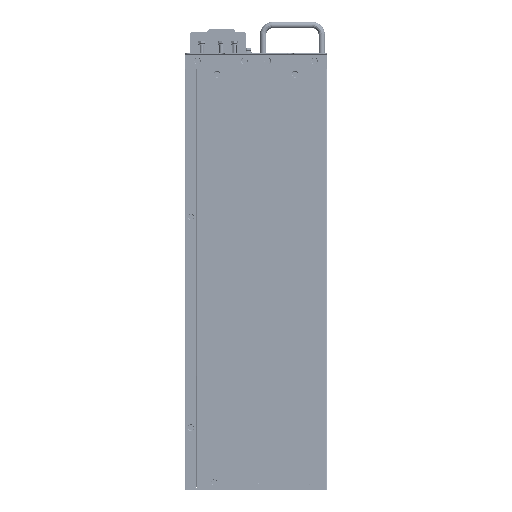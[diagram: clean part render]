
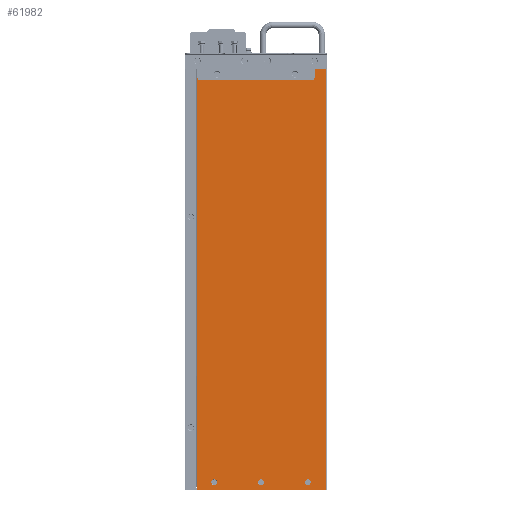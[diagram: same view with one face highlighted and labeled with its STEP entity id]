
A CAD part, left-side view. The second image highlights one B-rep face of the part: STEP entity #61982.
In plain terms, the highlighted planar face has unit normal (-1, 0, 0).
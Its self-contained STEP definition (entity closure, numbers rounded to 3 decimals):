
#1959 = CARTESIAN_POINT ( 'NONE',  ( -220., 88.75, -260. ) ) ;
#4779 = DIRECTION ( 'NONE',  ( 0., 1., 0. ) ) ;
#7407 = CARTESIAN_POINT ( 'NONE',  ( -220., 1.7, -270. ) ) ;
#13273 = AXIS2_PLACEMENT_3D ( 'NONE', #121825, #251513, #702819 ) ;
#19889 = CARTESIAN_POINT ( 'NONE',  ( -220., 145., -260. ) ) ;
#22571 = VECTOR ( 'NONE', #501934, 1000. ) ;
#47087 = VERTEX_POINT ( 'NONE', #71093 ) ;
#47524 = CARTESIAN_POINT ( 'NONE',  ( -220., 144.2, 263. ) ) ;
#47650 = EDGE_CURVE ( 'NONE', #244575, #813019, #123708, .T. ) ;
#50160 = VECTOR ( 'NONE', #475443, 1000. ) ;
#61754 = AXIS2_PLACEMENT_3D ( 'NONE', #611595, #414179, #154846 ) ;
#61982 = ADVANCED_FACE ( 'NONE', ( #85809, #65482, #126363, #499336, #751768, #580288 ), #801903, .T. ) ;
#65042 = CIRCLE ( 'NONE', #268367, 3.75 ) ;
#65482 = FACE_BOUND ( 'NONE', #461197, .T. ) ;
#71093 = CARTESIAN_POINT ( 'NONE',  ( -220., 81.25, -260. ) ) ;
#74111 = CIRCLE ( 'NONE', #585791, 2.7 ) ;
#75307 = ORIENTED_EDGE ( 'NONE', *, *, #805141, .T. ) ;
#76186 = CARTESIAN_POINT ( 'NONE',  ( -220., 21.25, -260. ) ) ;
#77962 = CARTESIAN_POINT ( 'NONE',  ( -220., 0., -270. ) ) ;
#85809 = FACE_OUTER_BOUND ( 'NONE', #418599, .T. ) ;
#86957 = DIRECTION ( 'NONE',  ( 1., 0., 0. ) ) ;
#106900 = VECTOR ( 'NONE', #276111, 1000. ) ;
#107500 = VERTEX_POINT ( 'NONE', #722017 ) ;
#120971 = CIRCLE ( 'NONE', #13273, 2.7 ) ;
#121825 = CARTESIAN_POINT ( 'NONE',  ( -220., 141.5, 263. ) ) ;
#123708 = LINE ( 'NONE', #437027, #22571 ) ;
#126363 = FACE_BOUND ( 'NONE', #686619, .T. ) ;
#134462 = CARTESIAN_POINT ( 'NONE',  ( -220., 85., -260. ) ) ;
#147110 = VERTEX_POINT ( 'NONE', #333543 ) ;
#148883 = ORIENTED_EDGE ( 'NONE', *, *, #558521, .T. ) ;
#150695 = EDGE_LOOP ( 'NONE', ( #75307, #818689 ) ) ;
#154846 = DIRECTION ( 'NONE',  ( 0., 1., 0. ) ) ;
#172297 = CIRCLE ( 'NONE', #238141, 2.7 ) ;
#175306 = DIRECTION ( 'NONE',  ( 0., 1., 0. ) ) ;
#175620 = DIRECTION ( 'NONE',  ( 1., 0., 0. ) ) ;
#176909 = ORIENTED_EDGE ( 'NONE', *, *, #235392, .T. ) ;
#177985 = DIRECTION ( 'NONE',  ( 1., 0., 0. ) ) ;
#194320 = ORIENTED_EDGE ( 'NONE', *, *, #796102, .T. ) ;
#198805 = EDGE_CURVE ( 'NONE', #271457, #427405, #281237, .T. ) ;
#201570 = LINE ( 'NONE', #77962, #50160 ) ;
#210132 = DIRECTION ( 'NONE',  ( 1., 0., 0. ) ) ;
#223803 = ORIENTED_EDGE ( 'NONE', *, *, #604214, .T. ) ;
#229699 = CARTESIAN_POINT ( 'NONE',  ( -220., 1.7, 270. ) ) ;
#232599 = CARTESIAN_POINT ( 'NONE',  ( -220., 138.8, 263. ) ) ;
#235392 = EDGE_CURVE ( 'NONE', #401214, #741820, #120971, .T. ) ;
#238141 = AXIS2_PLACEMENT_3D ( 'NONE', #273064, #86957, #602976 ) ;
#244575 = VERTEX_POINT ( 'NONE', #763917 ) ;
#251513 = DIRECTION ( 'NONE',  ( 1., 0., 0. ) ) ;
#257666 = AXIS2_PLACEMENT_3D ( 'NONE', #567125, #177985, #694073 ) ;
#268367 = AXIS2_PLACEMENT_3D ( 'NONE', #134462, #526325, #4779 ) ;
#271457 = VERTEX_POINT ( 'NONE', #643117 ) ;
#273064 = CARTESIAN_POINT ( 'NONE',  ( -220., 41.5, 263. ) ) ;
#274477 = EDGE_CURVE ( 'NONE', #47087, #685317, #581293, .T. ) ;
#276111 = DIRECTION ( 'NONE',  ( 0., 1., 0. ) ) ;
#281237 = CIRCLE ( 'NONE', #257666, 3.75 ) ;
#288317 = DIRECTION ( 'NONE',  ( -1., 0., 0. ) ) ;
#301749 = VERTEX_POINT ( 'NONE', #229699 ) ;
#317128 = EDGE_LOOP ( 'NONE', ( #656271, #194320 ) ) ;
#324907 = ORIENTED_EDGE ( 'NONE', *, *, #274477, .T. ) ;
#333453 = CARTESIAN_POINT ( 'NONE',  ( -220., 44.2, 263. ) ) ;
#333543 = CARTESIAN_POINT ( 'NONE',  ( -220., 38.8, 263. ) ) ;
#333649 = AXIS2_PLACEMENT_3D ( 'NONE', #380829, #386370, #640256 ) ;
#336951 = DIRECTION ( 'NONE',  ( 0., 1., 0. ) ) ;
#353238 = DIRECTION ( 'NONE',  ( 0., 1., 0. ) ) ;
#371371 = CIRCLE ( 'NONE', #754823, 3.75 ) ;
#375712 = AXIS2_PLACEMENT_3D ( 'NONE', #674931, #288317, #353238 ) ;
#380829 = CARTESIAN_POINT ( 'NONE',  ( -220., 85., -260. ) ) ;
#386370 = DIRECTION ( 'NONE',  ( 1., 0., 0. ) ) ;
#387735 = EDGE_CURVE ( 'NONE', #301749, #615014, #502885, .T. ) ;
#401214 = VERTEX_POINT ( 'NONE', #47524 ) ;
#404215 = EDGE_CURVE ( 'NONE', #301749, #244575, #439524, .T. ) ;
#410368 = CIRCLE ( 'NONE', #611947, 3.75 ) ;
#414179 = DIRECTION ( 'NONE',  ( 1., 0., 0. ) ) ;
#418599 = EDGE_LOOP ( 'NONE', ( #223803, #727183, #741048, #510483 ) ) ;
#423910 = CARTESIAN_POINT ( 'NONE',  ( -220., 1.7, 270. ) ) ;
#427405 = VERTEX_POINT ( 'NONE', #76186 ) ;
#429337 = DIRECTION ( 'NONE',  ( 0., 1., 0. ) ) ;
#437027 = CARTESIAN_POINT ( 'NONE',  ( -220., 167.032, 0. ) ) ;
#439524 = LINE ( 'NONE', #470767, #106900 ) ;
#444271 = VERTEX_POINT ( 'NONE', #333453 ) ;
#461197 = EDGE_LOOP ( 'NONE', ( #720520, #809550 ) ) ;
#469437 = CARTESIAN_POINT ( 'NONE',  ( -220., 25., -260. ) ) ;
#470767 = CARTESIAN_POINT ( 'NONE',  ( -220., 0., 270. ) ) ;
#471017 = DIRECTION ( 'NONE',  ( 1., 0., 0. ) ) ;
#475443 = DIRECTION ( 'NONE',  ( 0., -1., 0. ) ) ;
#490611 = VERTEX_POINT ( 'NONE', #740081 ) ;
#490657 = ORIENTED_EDGE ( 'NONE', *, *, #523729, .T. ) ;
#491178 = DIRECTION ( 'NONE',  ( 1., 0., 0. ) ) ;
#492274 = EDGE_CURVE ( 'NONE', #490611, #107500, #371371, .T. ) ;
#493956 = CARTESIAN_POINT ( 'NONE',  ( -220., 41.5, 263. ) ) ;
#499336 = FACE_BOUND ( 'NONE', #317128, .T. ) ;
#501934 = DIRECTION ( 'NONE',  ( 0., 0., -1. ) ) ;
#502885 = LINE ( 'NONE', #423910, #826033 ) ;
#506141 = CIRCLE ( 'NONE', #595334, 3.75 ) ;
#510483 = ORIENTED_EDGE ( 'NONE', *, *, #47650, .T. ) ;
#523729 = EDGE_CURVE ( 'NONE', #685317, #47087, #65042, .T. ) ;
#526325 = DIRECTION ( 'NONE',  ( 1., 0., 0. ) ) ;
#558521 = EDGE_CURVE ( 'NONE', #741820, #401214, #717365, .T. ) ;
#567125 = CARTESIAN_POINT ( 'NONE',  ( -220., 25., -260. ) ) ;
#580288 = FACE_BOUND ( 'NONE', #805429, .T. ) ;
#581293 = CIRCLE ( 'NONE', #333649, 3.75 ) ;
#585791 = AXIS2_PLACEMENT_3D ( 'NONE', #493956, #491178, #175306 ) ;
#595334 = AXIS2_PLACEMENT_3D ( 'NONE', #818781, #175620, #429337 ) ;
#602976 = DIRECTION ( 'NONE',  ( 0., 1., 0. ) ) ;
#604214 = EDGE_CURVE ( 'NONE', #813019, #615014, #201570, .T. ) ;
#611595 = CARTESIAN_POINT ( 'NONE',  ( -220., 141.5, 263. ) ) ;
#611947 = AXIS2_PLACEMENT_3D ( 'NONE', #469437, #210132, #336951 ) ;
#615014 = VERTEX_POINT ( 'NONE', #7407 ) ;
#629174 = EDGE_CURVE ( 'NONE', #147110, #444271, #74111, .T. ) ;
#640256 = DIRECTION ( 'NONE',  ( 0., 1., 0. ) ) ;
#643117 = CARTESIAN_POINT ( 'NONE',  ( -220., 28.75, -260. ) ) ;
#656271 = ORIENTED_EDGE ( 'NONE', *, *, #492274, .T. ) ;
#658318 = EDGE_CURVE ( 'NONE', #427405, #271457, #410368, .T. ) ;
#674931 = CARTESIAN_POINT ( 'NONE',  ( -220., 0., 0. ) ) ;
#685317 = VERTEX_POINT ( 'NONE', #1959 ) ;
#686619 = EDGE_LOOP ( 'NONE', ( #490657, #324907 ) ) ;
#694073 = DIRECTION ( 'NONE',  ( 0., 1., 0. ) ) ;
#702819 = DIRECTION ( 'NONE',  ( 0., 1., 0. ) ) ;
#717365 = CIRCLE ( 'NONE', #61754, 2.7 ) ;
#720520 = ORIENTED_EDGE ( 'NONE', *, *, #198805, .T. ) ;
#722017 = CARTESIAN_POINT ( 'NONE',  ( -220., 141.25, -260. ) ) ;
#727183 = ORIENTED_EDGE ( 'NONE', *, *, #387735, .F. ) ;
#740081 = CARTESIAN_POINT ( 'NONE',  ( -220., 148.75, -260. ) ) ;
#741048 = ORIENTED_EDGE ( 'NONE', *, *, #404215, .T. ) ;
#741820 = VERTEX_POINT ( 'NONE', #232599 ) ;
#751768 = FACE_BOUND ( 'NONE', #150695, .T. ) ;
#754823 = AXIS2_PLACEMENT_3D ( 'NONE', #19889, #471017, #792712 ) ;
#763917 = CARTESIAN_POINT ( 'NONE',  ( -220., 167.032, 270. ) ) ;
#782816 = CARTESIAN_POINT ( 'NONE',  ( -220., 167.032, -270. ) ) ;
#792712 = DIRECTION ( 'NONE',  ( 0., 1., 0. ) ) ;
#796102 = EDGE_CURVE ( 'NONE', #107500, #490611, #506141, .T. ) ;
#801903 = PLANE ( 'NONE',  #375712 ) ;
#805141 = EDGE_CURVE ( 'NONE', #444271, #147110, #172297, .T. ) ;
#805429 = EDGE_LOOP ( 'NONE', ( #176909, #148883 ) ) ;
#807779 = DIRECTION ( 'NONE',  ( 0., 0., -1. ) ) ;
#809550 = ORIENTED_EDGE ( 'NONE', *, *, #658318, .T. ) ;
#813019 = VERTEX_POINT ( 'NONE', #782816 ) ;
#818689 = ORIENTED_EDGE ( 'NONE', *, *, #629174, .T. ) ;
#818781 = CARTESIAN_POINT ( 'NONE',  ( -220., 145., -260. ) ) ;
#826033 = VECTOR ( 'NONE', #807779, 1000. ) ;
